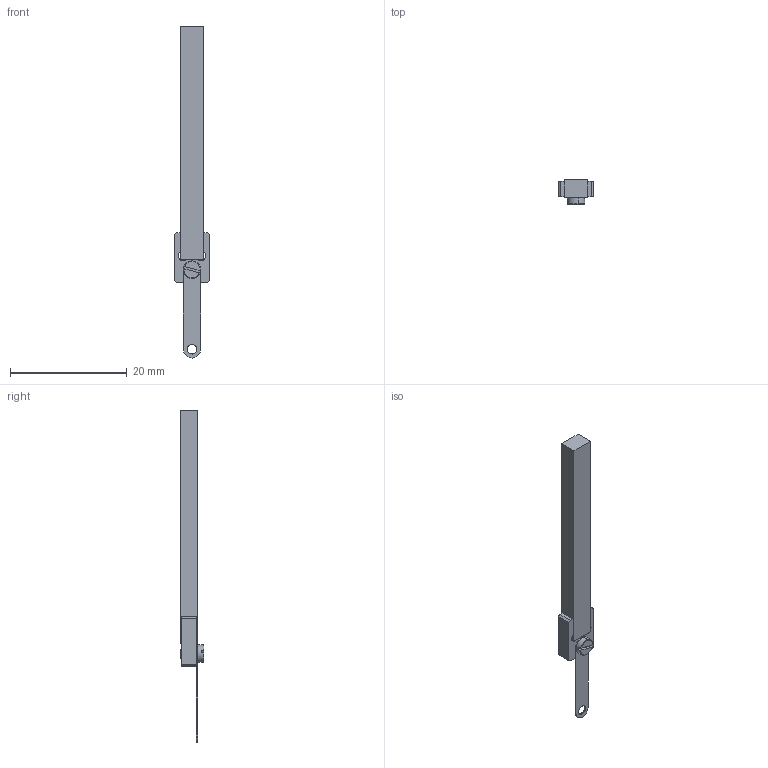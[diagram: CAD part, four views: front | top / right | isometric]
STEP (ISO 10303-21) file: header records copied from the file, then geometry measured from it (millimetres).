
FILE_DESCRIPTION (( 'STEP AP214' ), '1' );
FILE_NAME ('LT2020D_DriveRod_040D1D2-PiezoMotor.STEP', '2017-06-08T12:02:32', ( '' ), ( '' ), 'SwSTEP 2.0', 'SolidWorks 2016', '' );
FILE_SCHEMA (( 'AUTOMOTIVE_DESIGN' ));
Length unit declared in the file: millimetre
Products named in the file (2): LT2020D_DriveRod_040D1D2-PiezoMotor
Bounding box: 6 x 4.1 x 56.95 mm (x, y, z)
Volume: 580.2 mm3; surface area: 891.2 mm2
Topology: 4 solids, 4 shells, 54 faces, 130 edges, 85 vertices
Faces by surface type: plane 27, cylinder 20, cone 7
Entity records: 1677 total; most frequent: DIRECTION 289, CARTESIAN_POINT 283, ORIENTED_EDGE 260, EDGE_CURVE 130, AXIS2_PLACEMENT_3D 107, VERTEX_POINT 85, VECTOR 75, LINE 75
